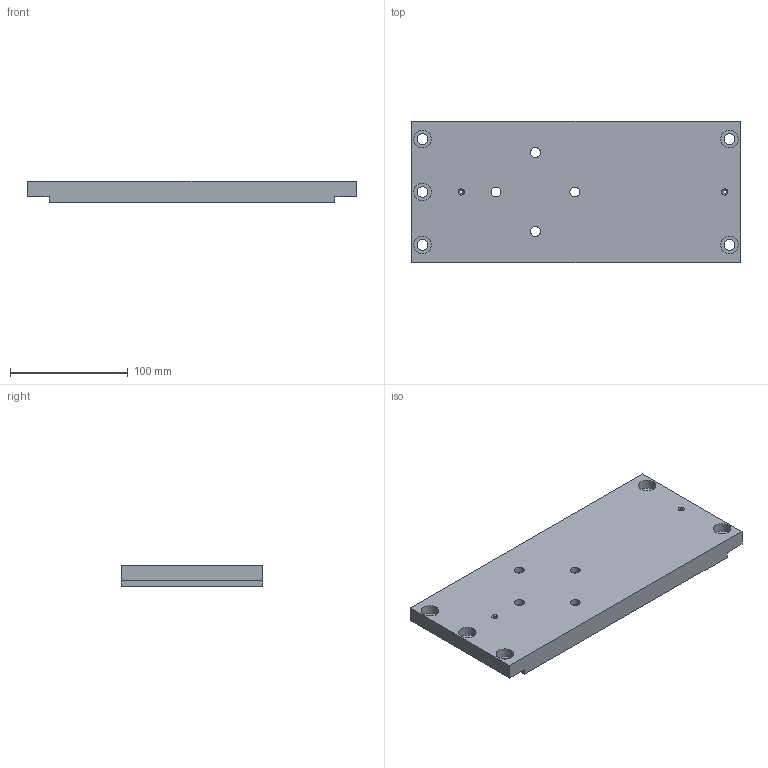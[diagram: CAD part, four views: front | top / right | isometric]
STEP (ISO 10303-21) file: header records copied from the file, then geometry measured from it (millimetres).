
FILE_DESCRIPTION(('STEP AP203'), '1');
FILE_NAME('ÒÏÏÔ1800.01.01.11.001 Ïëèòà', '', ('UNSPECIFIED'), ('UNSPECIFIED'), 'C3D Converter', 'C3D Toolkit', '');
FILE_SCHEMA(('CONFIG_CONTROL_DESIGN'));
Length unit declared in the file: millimetre
Products named in the file (1): ТППФ1800.01.01.11.001
Bounding box: 279 x 120 x 18 mm (x, y, z)
Volume: 497294.3 mm3; surface area: 86583 mm2
Topology: 1 solids, 1 shells, 39 faces, 87 edges, 56 vertices
Faces by surface type: cylinder 17, plane 16, cone 6
Full cylindrical faces by diameter (mm): 3.242 x2, 8.376 x4, 9 x5, 15 x5, 92 x1
Entity records: 1374 total; most frequent: DIRECTION 184, CARTESIAN_POINT 160, ORIENTED_EDGE 128, EDGE_LOOP 90, AXIS2_PLACEMENT_3D 80, EDGE_CURVE 64, VERTEX_POINT 56, FACE_OUTER_BOUND 46
